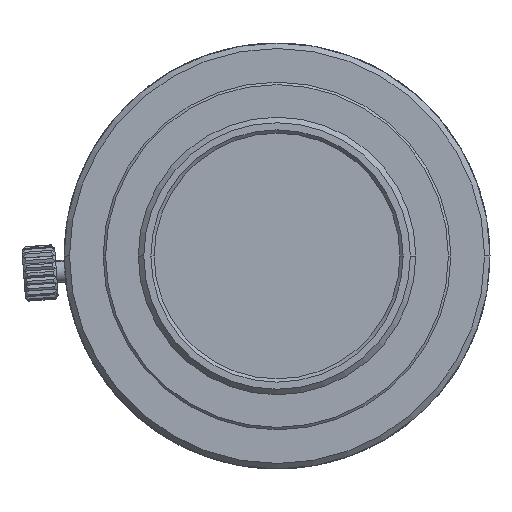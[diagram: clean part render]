
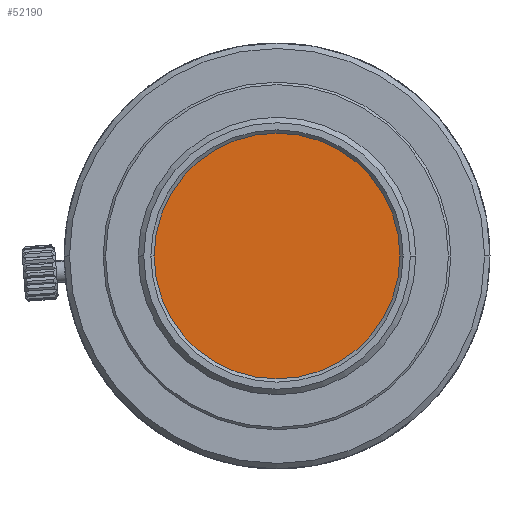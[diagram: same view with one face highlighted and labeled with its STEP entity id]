
A CAD part, left-side view. The second image highlights one B-rep face of the part: STEP entity #52190.
In plain terms, the highlighted planar face has unit normal (-1, 0, 0) as drawn and (0, 0, -1) by its records, which use the part's own axes.
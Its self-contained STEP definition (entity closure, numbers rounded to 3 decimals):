
#51780=CARTESIAN_POINT('',(-0.761,11.224,18.106));
#51790=VERTEX_POINT('',#51780);
#51950=CARTESIAN_POINT('',(0.761,-11.224,18.106));
#51960=VERTEX_POINT('',#51950);
#51990=CARTESIAN_POINT('',(0.,0.,18.106));
#52000=DIRECTION('',(0.,0.,1.));
#52010=DIRECTION('',(0.068,-0.998,
0.));
#52020=AXIS2_PLACEMENT_3D('',#51990,#52000,#52010);
#52030=CIRCLE('',#52020,11.25);
#52040=EDGE_CURVE('',#51790,#51960,#52030,.T.);
#52090=CARTESIAN_POINT('',(0.38,-5.612,18.106));
#52100=DIRECTION('',(0.,0.,1.));
#52110=DIRECTION('',(-0.068,0.998,
0.));
#52120=AXIS2_PLACEMENT_3D('',#52090,#52100,#52110);
#52130=PLANE('',#52120);
#52140=EDGE_CURVE('',#51960,#51790,#52030,.T.);
#52150=ORIENTED_EDGE('',*,*,#52140,.F.);
#52160=ORIENTED_EDGE('',*,*,#52040,.F.);
#52170=EDGE_LOOP('',(#52160,#52150));
#52180=FACE_OUTER_BOUND('',#52170,.T.);
#52190=ADVANCED_FACE('',(#52180),#52130,.F.);
